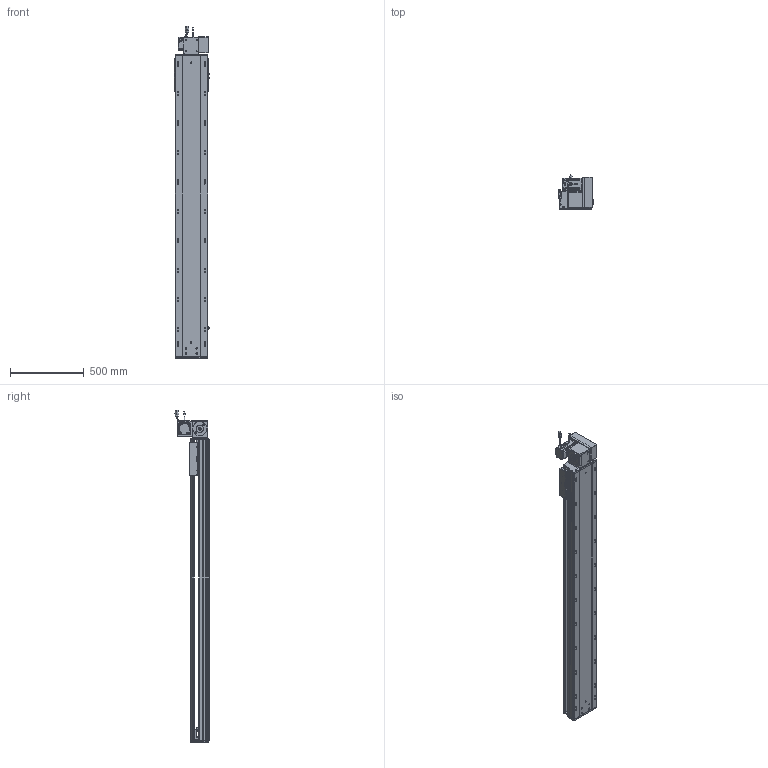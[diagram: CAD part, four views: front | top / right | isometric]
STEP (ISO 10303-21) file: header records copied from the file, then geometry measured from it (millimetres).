
FILE_DESCRIPTION (( 'STEP AP203' ), '1' );
FILE_NAME ('RY220-T-300-UR.SLDASM_1700.step', '2022-07-25T08:44:17', ( '' ), ( '' ), 'SwSTEP 2.0', 'SolidWorks 2016', '' );
FILE_SCHEMA (( 'CONFIG_CONTROL_DESIGN' ));
Length unit declared in the file: millimetre
Products named in the file (14): 110A-T-肮祭謫釱傷裔; RY220-T-300-UR.SLDASM_1700; 滅袉蝶18-15; RY220-T-湍謫欶(鍼踢); RY220翋肮祭謫裔啣; RY220-俋离672覜茼んえ; RY220-T-蛌殏萇儂假蚾啣(750W); RY220翋肮祭謫釱; RY220-T-300-奻裔啣_1700; RY220-同步轮副支撑座6304×2; 怢湛750W_ECMA-CX0807ES; RY220-T菁釱-300_1700; 覜茼ん672; RY220圉猾敕々湍臏賑輸
Assembly tree (18 placements, depth 2):
  RY220-T-300-UR.SLDASM_1700
    RY220-T菁釱-300_1700
    RY220翋肮祭謫釱
    覜茼ん672  x3
    RY220圉猾敕々湍臏賑輸
    RY220-T-300-奻裔啣_1700
    RY220-俋离672覜茼んえ
    滅袉蝶18-15  x3
    RY220翋肮祭謫裔啣  x2
    110A-T-肮祭謫釱傷裔
    怢湛750W_ECMA-CX0807ES
    RY220-T-湍謫欶(鍼踢)
    RY220-T-蛌殏萇儂假蚾啣(750W)
    RY220-同步轮副支撑座6304×2
Bounding box: 238.7 x 231.74 x 2253.27 mm (x, y, z)
Volume: 16788987.9 mm3; surface area: 5057047 mm2
Topology: 19 solids, 19 shells, 2768 faces, 7647 edges, 4828 vertices
Faces by surface type: cylinder 1324, plane 1069, cone 293, bspline 56, sphere 16, torus 10
Entity records: 92227 total; most frequent: CARTESIAN_POINT 26211, ORIENTED_EDGE 13690, DIRECTION 13044, EDGE_CURVE 6845, AXIS2_PLACEMENT_3D 4650, VERTEX_POINT 4452, LINE 3744, VECTOR 3744
